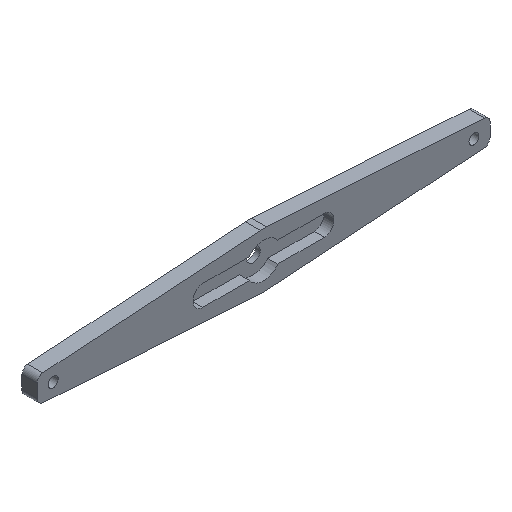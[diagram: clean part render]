
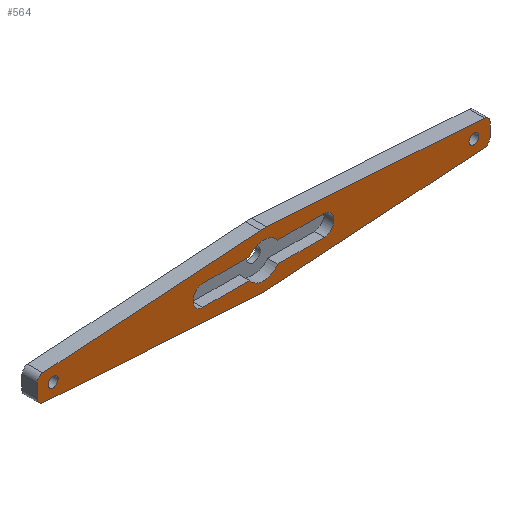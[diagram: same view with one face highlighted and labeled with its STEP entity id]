
A CAD part, isometric view. The second image highlights one B-rep face of the part: STEP entity #564.
In plain terms, the highlighted planar face has unit normal (0, -1, 0).
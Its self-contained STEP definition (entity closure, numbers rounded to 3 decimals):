
#20=FACE_BOUND('',#83,.T.);
#21=FACE_BOUND('',#84,.T.);
#22=FACE_BOUND('',#85,.T.);
#30=PLANE('',#620);
#51=FACE_OUTER_BOUND('',#82,.T.);
#82=EDGE_LOOP('',(#422,#423,#424,#425,#426,#427,#428,#429,#430,#431,#432,
#433));
#83=EDGE_LOOP('',(#434,#435,#436,#437,#438,#439,#440,#441,#442,#443,#444,
#445));
#84=EDGE_LOOP('',(#446));
#85=EDGE_LOOP('',(#447));
#118=LINE('',#868,#173);
#123=LINE('',#882,#178);
#126=LINE('',#890,#181);
#128=LINE('',#897,#183);
#129=LINE('',#899,#184);
#130=LINE('',#901,#185);
#131=LINE('',#905,#186);
#132=LINE('',#909,#187);
#133=LINE('',#911,#188);
#134=LINE('',#913,#189);
#135=LINE('',#916,#190);
#136=LINE('',#918,#191);
#137=LINE('',#921,#192);
#138=LINE('',#924,#193);
#173=VECTOR('',#692,10.);
#178=VECTOR('',#707,10.);
#181=VECTOR('',#716,10.);
#183=VECTOR('',#722,10.);
#184=VECTOR('',#723,10.);
#185=VECTOR('',#724,10.);
#186=VECTOR('',#727,10.);
#187=VECTOR('',#730,10.);
#188=VECTOR('',#731,10.);
#189=VECTOR('',#732,10.);
#190=VECTOR('',#735,10.);
#191=VECTOR('',#736,10.);
#192=VECTOR('',#739,10.);
#193=VECTOR('',#742,10.);
#221=CIRCLE('',#603,1.5);
#228=CIRCLE('',#613,1.5);
#229=CIRCLE('',#615,1.5);
#230=CIRCLE('',#618,1.5);
#231=CIRCLE('',#621,1.);
#232=CIRCLE('',#622,1.);
#233=CIRCLE('',#623,1.);
#234=CIRCLE('',#624,1.);
#235=CIRCLE('',#625,2.8);
#236=CIRCLE('',#626,2.8);
#237=CIRCLE('',#627,0.8);
#238=CIRCLE('',#628,0.8);
#248=VERTEX_POINT('',#837);
#249=VERTEX_POINT('',#839);
#261=VERTEX_POINT('',#867);
#262=VERTEX_POINT('',#871);
#263=VERTEX_POINT('',#875);
#264=VERTEX_POINT('',#877);
#265=VERTEX_POINT('',#881);
#266=VERTEX_POINT('',#885);
#267=VERTEX_POINT('',#889);
#268=VERTEX_POINT('',#893);
#269=VERTEX_POINT('',#894);
#270=VERTEX_POINT('',#896);
#271=VERTEX_POINT('',#898);
#272=VERTEX_POINT('',#900);
#273=VERTEX_POINT('',#902);
#274=VERTEX_POINT('',#904);
#275=VERTEX_POINT('',#906);
#276=VERTEX_POINT('',#908);
#277=VERTEX_POINT('',#910);
#278=VERTEX_POINT('',#912);
#279=VERTEX_POINT('',#914);
#280=VERTEX_POINT('',#917);
#281=VERTEX_POINT('',#920);
#282=VERTEX_POINT('',#922);
#283=VERTEX_POINT('',#925);
#284=VERTEX_POINT('',#927);
#302=EDGE_CURVE('',#248,#249,#221,.T.);
#316=EDGE_CURVE('',#261,#249,#118,.F.);
#318=EDGE_CURVE('',#261,#262,#228,.T.);
#321=EDGE_CURVE('',#263,#264,#229,.T.);
#323=EDGE_CURVE('',#265,#264,#123,.F.);
#325=EDGE_CURVE('',#265,#266,#230,.T.);
#327=EDGE_CURVE('',#267,#266,#126,.T.);
#329=EDGE_CURVE('',#268,#269,#231,.T.);
#330=EDGE_CURVE('',#270,#268,#128,.T.);
#331=EDGE_CURVE('',#270,#271,#129,.T.);
#332=EDGE_CURVE('',#272,#271,#130,.T.);
#333=EDGE_CURVE('',#273,#272,#232,.T.);
#334=EDGE_CURVE('',#273,#274,#131,.T.);
#335=EDGE_CURVE('',#275,#274,#233,.T.);
#336=EDGE_CURVE('',#276,#275,#132,.T.);
#337=EDGE_CURVE('',#276,#277,#133,.T.);
#338=EDGE_CURVE('',#278,#277,#134,.T.);
#339=EDGE_CURVE('',#279,#278,#234,.T.);
#340=EDGE_CURVE('',#279,#269,#135,.T.);
#341=EDGE_CURVE('',#248,#280,#136,.T.);
#342=EDGE_CURVE('',#280,#267,#235,.T.);
#343=EDGE_CURVE('',#263,#281,#137,.T.);
#344=EDGE_CURVE('',#281,#282,#236,.T.);
#345=EDGE_CURVE('',#282,#262,#138,.T.);
#346=EDGE_CURVE('',#283,#283,#237,.F.);
#347=EDGE_CURVE('',#284,#284,#238,.F.);
#422=ORIENTED_EDGE('',*,*,#329,.F.);
#423=ORIENTED_EDGE('',*,*,#330,.F.);
#424=ORIENTED_EDGE('',*,*,#331,.T.);
#425=ORIENTED_EDGE('',*,*,#332,.F.);
#426=ORIENTED_EDGE('',*,*,#333,.F.);
#427=ORIENTED_EDGE('',*,*,#334,.T.);
#428=ORIENTED_EDGE('',*,*,#335,.F.);
#429=ORIENTED_EDGE('',*,*,#336,.F.);
#430=ORIENTED_EDGE('',*,*,#337,.T.);
#431=ORIENTED_EDGE('',*,*,#338,.F.);
#432=ORIENTED_EDGE('',*,*,#339,.F.);
#433=ORIENTED_EDGE('',*,*,#340,.T.);
#434=ORIENTED_EDGE('',*,*,#316,.T.);
#435=ORIENTED_EDGE('',*,*,#302,.F.);
#436=ORIENTED_EDGE('',*,*,#341,.T.);
#437=ORIENTED_EDGE('',*,*,#342,.T.);
#438=ORIENTED_EDGE('',*,*,#327,.T.);
#439=ORIENTED_EDGE('',*,*,#325,.F.);
#440=ORIENTED_EDGE('',*,*,#323,.T.);
#441=ORIENTED_EDGE('',*,*,#321,.F.);
#442=ORIENTED_EDGE('',*,*,#343,.T.);
#443=ORIENTED_EDGE('',*,*,#344,.T.);
#444=ORIENTED_EDGE('',*,*,#345,.T.);
#445=ORIENTED_EDGE('',*,*,#318,.F.);
#446=ORIENTED_EDGE('',*,*,#346,.T.);
#447=ORIENTED_EDGE('',*,*,#347,.T.);
#564=ADVANCED_FACE('',(#51,#20,#21,#22),#30,.F.);
#603=AXIS2_PLACEMENT_3D('',#840,#667,#668);
#613=AXIS2_PLACEMENT_3D('',#872,#696,#697);
#615=AXIS2_PLACEMENT_3D('',#878,#702,#703);
#618=AXIS2_PLACEMENT_3D('',#886,#711,#712);
#620=AXIS2_PLACEMENT_3D('',#892,#718,#719);
#621=AXIS2_PLACEMENT_3D('',#895,#720,#721);
#622=AXIS2_PLACEMENT_3D('',#903,#725,#726);
#623=AXIS2_PLACEMENT_3D('',#907,#728,#729);
#624=AXIS2_PLACEMENT_3D('',#915,#733,#734);
#625=AXIS2_PLACEMENT_3D('',#919,#737,#738);
#626=AXIS2_PLACEMENT_3D('',#923,#740,#741);
#627=AXIS2_PLACEMENT_3D('',#926,#743,#744);
#628=AXIS2_PLACEMENT_3D('',#928,#745,#746);
#667=DIRECTION('center_axis',(0.,-1.,0.));
#668=DIRECTION('ref_axis',(-0.707,0.,0.707));
#692=DIRECTION('',(0.,0.,-1.));
#696=DIRECTION('center_axis',(0.,-1.,0.));
#697=DIRECTION('ref_axis',(-0.707,0.,-0.707));
#702=DIRECTION('center_axis',(0.,-1.,0.));
#703=DIRECTION('ref_axis',(0.707,0.,-0.707));
#707=DIRECTION('',(0.,0.,1.));
#711=DIRECTION('center_axis',(0.,-1.,0.));
#712=DIRECTION('ref_axis',(0.707,0.,0.707));
#716=DIRECTION('',(1.,0.,0.));
#718=DIRECTION('center_axis',(0.,1.,0.));
#719=DIRECTION('ref_axis',(0.,0.,1.));
#720=DIRECTION('center_axis',(0.,1.,0.));
#721=DIRECTION('ref_axis',(0.73,0.,0.683));
#722=DIRECTION('',(0.998,0.,-0.067));
#723=DIRECTION('',(-1.,0.,0.));
#724=DIRECTION('',(0.998,0.,0.067));
#725=DIRECTION('center_axis',(0.,1.,0.));
#726=DIRECTION('ref_axis',(-0.73,0.,0.683));
#727=DIRECTION('',(0.,0.,-1.));
#728=DIRECTION('center_axis',(0.,1.,0.));
#729=DIRECTION('ref_axis',(-0.73,0.,-0.683));
#730=DIRECTION('',(-0.998,0.,0.067));
#731=DIRECTION('',(1.,0.,0.));
#732=DIRECTION('',(-0.998,0.,-0.067));
#733=DIRECTION('center_axis',(0.,1.,0.));
#734=DIRECTION('ref_axis',(0.73,0.,-0.683));
#735=DIRECTION('',(0.,0.,1.));
#736=DIRECTION('',(1.,0.,0.));
#737=DIRECTION('center_axis',(0.,1.,0.));
#738=DIRECTION('ref_axis',(1.,0.,0.));
#739=DIRECTION('',(-1.,0.,0.));
#740=DIRECTION('center_axis',(0.,1.,0.));
#741=DIRECTION('ref_axis',(1.,0.,0.));
#742=DIRECTION('',(-1.,0.,0.));
#743=DIRECTION('center_axis',(0.,-1.,0.));
#744=DIRECTION('ref_axis',(0.,0.,1.));
#745=DIRECTION('center_axis',(0.,-1.,0.));
#746=DIRECTION('ref_axis',(0.,0.,1.));
#837=CARTESIAN_POINT('',(-9.65,-1.4,1.65));
#839=CARTESIAN_POINT('',(-11.15,-1.4,0.15));
#840=CARTESIAN_POINT('Origin',(-9.65,-1.4,0.15));
#867=CARTESIAN_POINT('',(-11.15,-1.4,-0.15));
#868=CARTESIAN_POINT('',(-11.15,-1.4,0.825));
#871=CARTESIAN_POINT('',(-9.65,-1.4,-1.65));
#872=CARTESIAN_POINT('Origin',(-9.65,-1.4,-0.15));
#875=CARTESIAN_POINT('',(9.65,-1.4,-1.65));
#877=CARTESIAN_POINT('',(11.15,-1.4,-0.15));
#878=CARTESIAN_POINT('Origin',(9.65,-1.4,-0.15));
#881=CARTESIAN_POINT('',(11.15,-1.4,0.15));
#882=CARTESIAN_POINT('',(11.15,-1.4,-0.825));
#885=CARTESIAN_POINT('',(9.65,-1.4,1.65));
#886=CARTESIAN_POINT('Origin',(9.65,-1.4,0.15));
#889=CARTESIAN_POINT('',(2.262,-1.4,1.65));
#890=CARTESIAN_POINT('',(5.55,-1.4,1.65));
#892=CARTESIAN_POINT('Origin',(0.,-1.4,0.));
#893=CARTESIAN_POINT('',(35.067,-1.4,2.056));
#894=CARTESIAN_POINT('',(36.,-1.4,1.058));
#895=CARTESIAN_POINT('Origin',(35.,-1.4,1.058));
#896=CARTESIAN_POINT('',(0.5,-1.4,4.36));
#897=CARTESIAN_POINT('',(10.126,-1.4,3.719));
#898=CARTESIAN_POINT('',(-0.5,-1.4,4.36));
#899=CARTESIAN_POINT('',(-17.5,-1.4,4.36));
#900=CARTESIAN_POINT('',(-35.067,-1.4,2.056));
#901=CARTESIAN_POINT('',(-10.126,-1.4,3.719));
#902=CARTESIAN_POINT('',(-36.,-1.4,1.058));
#903=CARTESIAN_POINT('Origin',(-35.,-1.4,1.058));
#904=CARTESIAN_POINT('',(-36.,-1.4,-1.058));
#905=CARTESIAN_POINT('',(-36.,-1.4,-1.73));
#906=CARTESIAN_POINT('',(-35.067,-1.4,-2.056));
#907=CARTESIAN_POINT('Origin',(-35.,-1.4,-1.058));
#908=CARTESIAN_POINT('',(-0.5,-1.4,-4.36));
#909=CARTESIAN_POINT('',(-10.126,-1.4,-3.719));
#910=CARTESIAN_POINT('',(0.5,-1.4,-4.36));
#911=CARTESIAN_POINT('',(17.5,-1.4,-4.36));
#912=CARTESIAN_POINT('',(35.067,-1.4,-2.056));
#913=CARTESIAN_POINT('',(10.126,-1.4,-3.719));
#914=CARTESIAN_POINT('',(36.,-1.4,-1.058));
#915=CARTESIAN_POINT('Origin',(35.,-1.4,-1.058));
#916=CARTESIAN_POINT('',(36.,-1.4,1.73));
#917=CARTESIAN_POINT('',(-2.262,-1.4,1.65));
#918=CARTESIAN_POINT('',(-1.131,-1.4,1.65));
#919=CARTESIAN_POINT('Origin',(0.,-1.4,0.));
#920=CARTESIAN_POINT('',(2.262,-1.4,-1.65));
#921=CARTESIAN_POINT('',(1.131,-1.4,-1.65));
#922=CARTESIAN_POINT('',(-2.262,-1.4,-1.65));
#923=CARTESIAN_POINT('Origin',(0.,-1.4,0.));
#924=CARTESIAN_POINT('',(-5.55,-1.4,-1.65));
#925=CARTESIAN_POINT('',(-33.45,-1.4,-0.8));
#926=CARTESIAN_POINT('Origin',(-33.45,-1.4,0.));
#927=CARTESIAN_POINT('',(33.45,-1.4,-0.8));
#928=CARTESIAN_POINT('Origin',(33.45,-1.4,0.));
